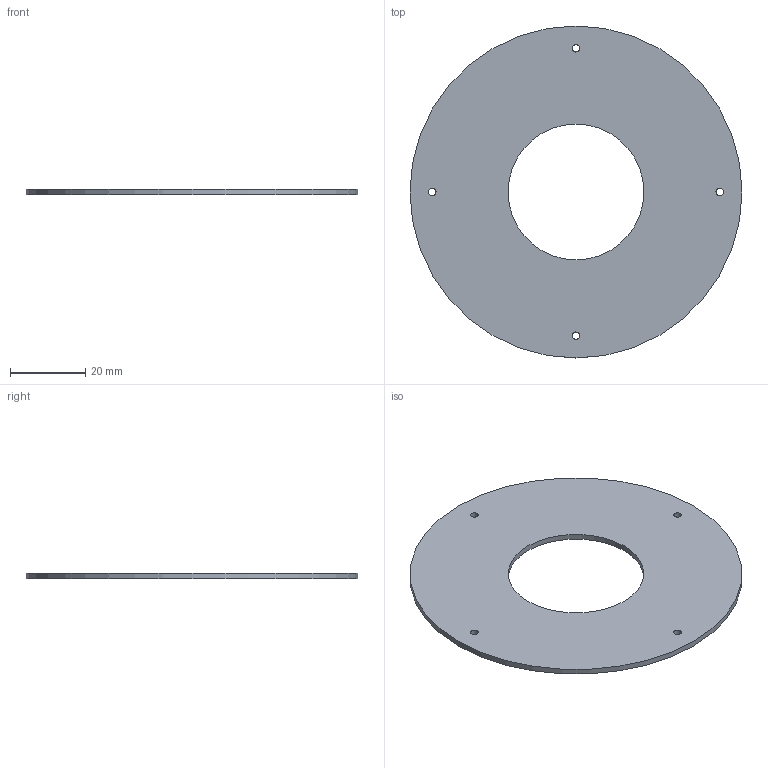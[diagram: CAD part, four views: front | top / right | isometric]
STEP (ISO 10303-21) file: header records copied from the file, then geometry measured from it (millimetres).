
FILE_DESCRIPTION(('STEP AP203'), '1');
FILE_NAME('ring', '', ('UNSPECIFIED'), ('UNSPECIFIED'), 'ASCON STEP Converter 1.3', 'ASCON Math Kernel', '');
FILE_SCHEMA(('CONFIG_CONTROL_DESIGN'));
Length unit declared in the file: millimetre
Bounding box: 88 x 88 x 1.5 mm (x, y, z)
Volume: 7577.5 mm3; surface area: 10725.4 mm2
Topology: 1 solids, 1 shells, 8 faces, 18 edges, 12 vertices
Faces by surface type: cylinder 6, plane 2
Full cylindrical faces by diameter (mm): 2 x4, 36 x1, 88 x1
Entity records: 332 total; most frequent: DIRECTION 42, CARTESIAN_POINT 33, EDGE_LOOP 24, ORIENTED_EDGE 24, AXIS2_PLACEMENT_3D 21, FACE_BOUND 12, FACE_OUTER_BOUND 12, EDGE_CURVE 12
